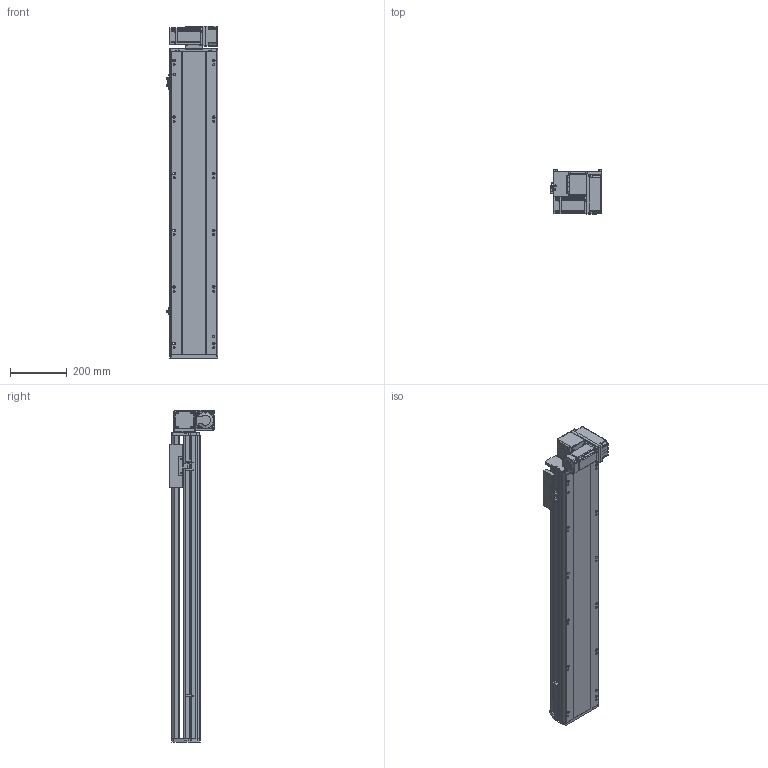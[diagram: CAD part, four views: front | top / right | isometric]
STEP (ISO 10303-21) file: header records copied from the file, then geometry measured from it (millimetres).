
FILE_DESCRIPTION (( 'STEP AP214' ), '1' );
FILE_NAME ('RTB17S-XX-800-RM-M40-C4.STEP', '2025-12-11T08:15:10', ( '' ), ( '' ), 'SwSTEP 2.0', 'SolidWorks 2018', '' );
FILE_SCHEMA (( 'AUTOMOTIVE_DESIGN' ));
Length unit declared in the file: millimetre
Products named in the file (14): 400W侜督萇儂^RTB17S-XX-XX-RM-M40-C4; RTB14-L-018P^RTB17S-RM-々湍釱蚾饜-400W_RTB17S-XX-XX-RM-M40-C4; OMRON EE-SX672 传感器^RTB17S-XX-XX-RM-M40-C4; RTB17S-L-007奻裔^RTB17S-XX-XX-RM-M40-C4; RTB17S-L-001耜醱啣^RTB17S-XX-XX-RM-M40-C4; RTB17S-L-004佪裝蹟譫蟀諉釱^RTB17S-XX-XX-RM-M40-C4; RTB14-L-008-M20--萇儂啣^RTB17S-RM-々湍釱蚾饜-400W_RTB17S-XX-XX-RM-M40-C4; RTB17S-RM-々湍釱蚾饜-400W^RTB17S-XX-XX-RM-M40-C4; RTB17S-L-014-T20--々湍釱^RTB17S-RM-々湍釱蚾饜-400W_RTB17S-XX-XX-RM-M40-C4; RTB14-L-005P--轴承塑胶压盖^RTB17S-RM-皮带座装配-400W_RTB17S-XX-XX-RM-M40-C4; RTB17-R-011菁釱^RTB17S-XX-XX-RM-M40-C4; RTB14-L-017P^RTB17S-RM-々湍釱蚾饜-400W_RTB17S-XX-XX-RM-M40-C4; RTB17S-XX-800-RM-M40-C4; RTH13-BL-012覜茼え俋离^RTB17S-XX-XX-RM-M40-C4
Assembly tree (16 placements, depth 3):
  RTB17S-XX-800-RM-M40-C4
    RTB17-R-011菁釱^RTB17S-XX-XX-RM-M40-C4
    RTB17S-L-007奻裔^RTB17S-XX-XX-RM-M40-C4
    OMRON EE-SX672 传感器^RTB17S-XX-XX-RM-M40-C4  x3
    RTB17S-L-001耜醱啣^RTB17S-XX-XX-RM-M40-C4
    400W侜督萇儂^RTB17S-XX-XX-RM-M40-C4
    RTB17S-L-004佪裝蹟譫蟀諉釱^RTB17S-XX-XX-RM-M40-C4
    RTH13-BL-012覜茼え俋离^RTB17S-XX-XX-RM-M40-C4
    RTB17S-RM-々湍釱蚾饜-400W^RTB17S-XX-XX-RM-M40-C4
      RTB17S-L-014-T20--々湍釱^RTB17S-RM-々湍釱蚾饜-400W_RTB17S-XX-XX-RM-M40-C4
      RTB14-L-005P--轴承塑胶压盖^RTB17S-RM-皮带座装配-400W_RTB17S-XX-XX-RM-M40-C4
      RTB14-L-008-M20--萇儂啣^RTB17S-RM-々湍釱蚾饜-400W_RTB17S-XX-XX-RM-M40-C4
      RTB14-L-017P^RTB17S-RM-々湍釱蚾饜-400W_RTB17S-XX-XX-RM-M40-C4  x2
      RTB14-L-018P^RTB17S-RM-々湍釱蚾饜-400W_RTB17S-XX-XX-RM-M40-C4
Bounding box: 183.5 x 156.5 x 1172.5 mm (x, y, z)
Volume: 10746006.8 mm3; surface area: 1319307.2 mm2
Topology: 15 solids, 15 shells, 2189 faces, 6033 edges, 3933 vertices
Faces by surface type: plane 1066, cylinder 675, bspline 301, cone 139, torus 8
Entity records: 61865 total; most frequent: CARTESIAN_POINT 17238, ORIENTED_EDGE 8910, DIRECTION 8306, EDGE_CURVE 4455, VERTEX_POINT 2921, AXIS2_PLACEMENT_3D 2851, VECTOR 2604, LINE 2604
